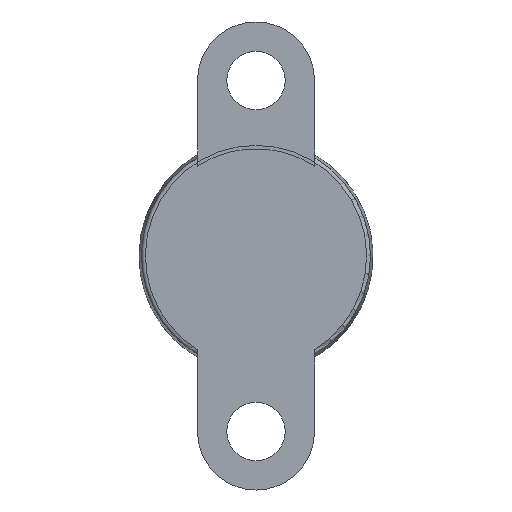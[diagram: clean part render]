
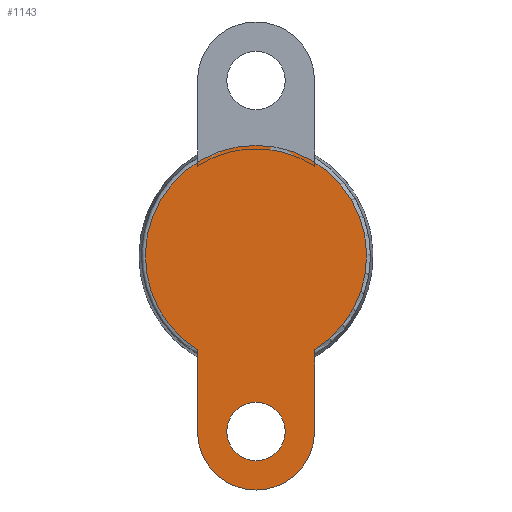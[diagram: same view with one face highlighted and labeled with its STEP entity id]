
A CAD part, front view. The second image highlights one B-rep face of the part: STEP entity #1143.
In plain terms, the highlighted planar face has unit normal (0, -1, 0).
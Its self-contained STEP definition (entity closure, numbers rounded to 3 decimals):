
#22=FACE_BOUND('',#175,.T.);
#59=PLANE('',#1260);
#103=FACE_OUTER_BOUND('',#174,.T.);
#174=EDGE_LOOP('',(#777,#778,#779,#780));
#175=EDGE_LOOP('',(#781));
#239=LINE('',#1770,#313);
#245=LINE('',#1794,#319);
#313=VECTOR('',#1396,10.);
#319=VECTOR('',#1416,10.);
#398=CIRCLE('',#1244,7.5);
#400=CIRCLE('',#1247,15.);
#407=CIRCLE('',#1258,28.367);
#464=VERTEX_POINT('',#1758);
#465=VERTEX_POINT('',#1769);
#467=VERTEX_POINT('',#1775);
#469=VERTEX_POINT('',#1781);
#473=VERTEX_POINT('',#1793);
#570=EDGE_CURVE('',#464,#465,#239,.T.);
#573=EDGE_CURVE('',#467,#467,#398,.T.);
#576=EDGE_CURVE('',#465,#469,#400,.T.);
#581=EDGE_CURVE('',#469,#473,#245,.T.);
#589=EDGE_CURVE('',#464,#473,#407,.T.);
#777=ORIENTED_EDGE('',*,*,#589,.T.);
#778=ORIENTED_EDGE('',*,*,#581,.F.);
#779=ORIENTED_EDGE('',*,*,#576,.F.);
#780=ORIENTED_EDGE('',*,*,#570,.F.);
#781=ORIENTED_EDGE('',*,*,#573,.T.);
#1143=ADVANCED_FACE('',(#103,#22),#59,.F.);
#1244=AXIS2_PLACEMENT_3D('',#1776,#1401,#1402);
#1247=AXIS2_PLACEMENT_3D('',#1782,#1408,#1409);
#1258=AXIS2_PLACEMENT_3D('',#1817,#1434,#1435);
#1260=AXIS2_PLACEMENT_3D('',#1819,#1438,#1439);
#1396=DIRECTION('',(0.,0.,-1.));
#1401=DIRECTION('center_axis',(0.,1.,0.));
#1402=DIRECTION('ref_axis',(-1.,0.,0.));
#1408=DIRECTION('center_axis',(0.,1.,0.));
#1409=DIRECTION('ref_axis',(1.,0.,0.));
#1416=DIRECTION('',(0.,0.,1.));
#1434=DIRECTION('center_axis',(0.,-1.,0.));
#1435=DIRECTION('ref_axis',(1.,0.,0.));
#1438=DIRECTION('center_axis',(0.,1.,0.));
#1439=DIRECTION('ref_axis',(0.,0.,1.));
#1758=CARTESIAN_POINT('',(1317.553,970.852,-24.077));
#1769=CARTESIAN_POINT('',(1317.553,970.852,-45.));
#1770=CARTESIAN_POINT('',(1317.553,970.852,-23.049));
#1775=CARTESIAN_POINT('',(1310.053,970.852,-45.));
#1776=CARTESIAN_POINT('Origin',(1302.553,970.852,-45.));
#1781=CARTESIAN_POINT('',(1287.553,970.852,-45.));
#1782=CARTESIAN_POINT('Origin',(1302.553,970.852,-45.));
#1793=CARTESIAN_POINT('',(1287.553,970.852,-24.077));
#1794=CARTESIAN_POINT('',(1287.553,970.852,-45.));
#1817=CARTESIAN_POINT('Origin',(1302.553,970.852,0.));
#1819=CARTESIAN_POINT('Origin',(1245.818,970.852,-56.734));
